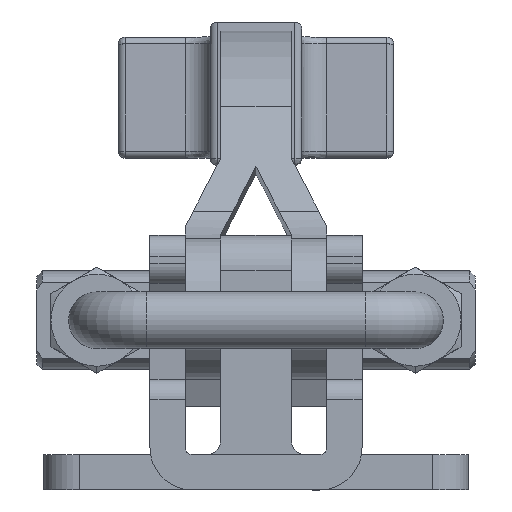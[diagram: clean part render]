
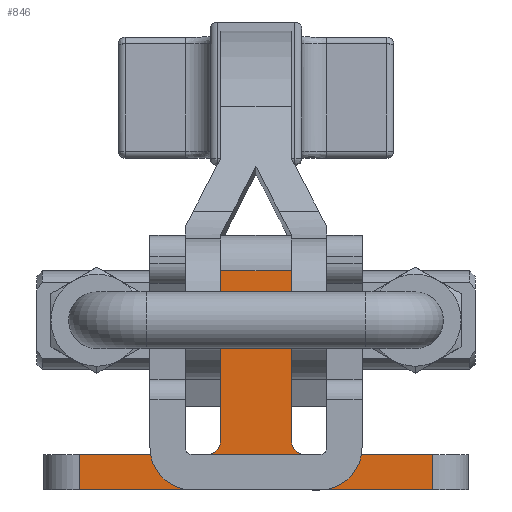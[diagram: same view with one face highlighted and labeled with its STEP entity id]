
A CAD part, front view. The second image highlights one B-rep face of the part: STEP entity #846.
In plain terms, the highlighted planar face has unit normal (0, -1, 0).
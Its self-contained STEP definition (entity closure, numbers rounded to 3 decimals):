
#104=CARTESIAN_POINT('Cartesian Point',(-5.,-10.,7.)) ;
#107=CARTESIAN_POINT('Line Origine',(-5.,-10.,19.)) ;
#111=CARTESIAN_POINT('Cartesian Point',(-5.,-10.,31.)) ;
#204=CARTESIAN_POINT('Cartesian Point',(5.,-10.,31.)) ;
#207=CARTESIAN_POINT('Line Origine',(5.,-10.,19.)) ;
#211=CARTESIAN_POINT('Cartesian Point',(5.,-10.,7.)) ;
#297=CARTESIAN_POINT('Axis2P3D Location',(7.,-10.,7.)) ;
#301=CARTESIAN_POINT('Cartesian Point',(7.,-10.,5.)) ;
#335=CARTESIAN_POINT('Line Origine',(16.,-10.,5.)) ;
#339=CARTESIAN_POINT('Cartesian Point',(25.,-10.,5.)) ;
#439=CARTESIAN_POINT('Cartesian Point',(-25.,-10.,0.)) ;
#474=CARTESIAN_POINT('Cartesian Point',(25.,-10.,0.)) ;
#477=CARTESIAN_POINT('Line Origine',(0.,-10.,0.)) ;
#605=CARTESIAN_POINT('Cartesian Point',(-25.,-10.,5.)) ;
#608=CARTESIAN_POINT('Line Origine',(-16.,-10.,5.)) ;
#612=CARTESIAN_POINT('Cartesian Point',(-7.,-10.,5.)) ;
#689=CARTESIAN_POINT('Axis2P3D Location',(-7.,-10.,7.)) ;
#814=CARTESIAN_POINT('Axis2P3D Location',(25.,-10.,36.)) ;
#819=CARTESIAN_POINT('Line Origine',(-25.,-10.,2.5)) ;
#824=CARTESIAN_POINT('Line Origine',(25.,-10.,2.5)) ;
#829=CARTESIAN_POINT('Line Origine',(0.,-10.,31.)) ;
#108=DIRECTION('Vector Direction',(0.,0.,-1.)) ;
#208=DIRECTION('Vector Direction',(0.,0.,-1.)) ;
#298=DIRECTION('Axis2P3D Direction',(0.,-1.,0.)) ;
#336=DIRECTION('Vector Direction',(-1.,0.,0.)) ;
#478=DIRECTION('Vector Direction',(-1.,0.,0.)) ;
#609=DIRECTION('Vector Direction',(-1.,0.,0.)) ;
#690=DIRECTION('Axis2P3D Direction',(0.,-1.,0.)) ;
#815=DIRECTION('Axis2P3D Direction',(0.,-1.,0.)) ;
#816=DIRECTION('Axis2P3D XDirection',(0.,0.,1.)) ;
#820=DIRECTION('Vector Direction',(0.,0.,-1.)) ;
#825=DIRECTION('Vector Direction',(0.,0.,-1.)) ;
#830=DIRECTION('Vector Direction',(-1.,0.,0.)) ;
#299=AXIS2_PLACEMENT_3D('Circle Axis2P3D',#297,#298,$) ;
#691=AXIS2_PLACEMENT_3D('Circle Axis2P3D',#689,#690,$) ;
#817=AXIS2_PLACEMENT_3D('Plane Axis2P3D',#814,#815,#816) ;
#835=ORIENTED_EDGE('Oriented Edge',*,*,#823,.T.) ;
#836=ORIENTED_EDGE('Oriented Edge',*,*,#481,.F.) ;
#837=ORIENTED_EDGE('Oriented Edge',*,*,#828,.F.) ;
#838=ORIENTED_EDGE('Oriented Edge',*,*,#341,.T.) ;
#839=ORIENTED_EDGE('Oriented Edge',*,*,#303,.T.) ;
#840=ORIENTED_EDGE('Oriented Edge',*,*,#213,.F.) ;
#841=ORIENTED_EDGE('Oriented Edge',*,*,#833,.T.) ;
#842=ORIENTED_EDGE('Oriented Edge',*,*,#113,.T.) ;
#843=ORIENTED_EDGE('Oriented Edge',*,*,#693,.T.) ;
#844=ORIENTED_EDGE('Oriented Edge',*,*,#614,.T.) ;
#109=VECTOR('Line Direction',#108,1.) ;
#209=VECTOR('Line Direction',#208,1.) ;
#337=VECTOR('Line Direction',#336,1.) ;
#479=VECTOR('Line Direction',#478,1.) ;
#610=VECTOR('Line Direction',#609,1.) ;
#821=VECTOR('Line Direction',#820,1.) ;
#826=VECTOR('Line Direction',#825,1.) ;
#831=VECTOR('Line Direction',#830,1.) ;
#846=ADVANCED_FACE('',(#845),#818,.T.) ;
#300=CIRCLE('generated circle',#299,2.) ;
#692=CIRCLE('generated circle',#691,2.) ;
#113=EDGE_CURVE('',#112,#105,#110,.T.) ;
#213=EDGE_CURVE('',#205,#212,#210,.T.) ;
#303=EDGE_CURVE('',#302,#212,#300,.F.) ;
#341=EDGE_CURVE('',#340,#302,#338,.T.) ;
#481=EDGE_CURVE('',#475,#440,#480,.T.) ;
#614=EDGE_CURVE('',#613,#606,#611,.T.) ;
#693=EDGE_CURVE('',#105,#613,#692,.F.) ;
#823=EDGE_CURVE('',#606,#440,#822,.T.) ;
#828=EDGE_CURVE('',#340,#475,#827,.T.) ;
#833=EDGE_CURVE('',#205,#112,#832,.T.) ;
#834=EDGE_LOOP('Oriented Loop',(#835,#836,#837,#838,#839,#840,#841,#842,#843,#844)) ;
#845=FACE_OUTER_BOUND('Face Bound',#834,.T.) ;
#110=LINE('Line',#107,#109) ;
#210=LINE('Line',#207,#209) ;
#338=LINE('Line',#335,#337) ;
#480=LINE('Line',#477,#479) ;
#611=LINE('Line',#608,#610) ;
#822=LINE('Line',#819,#821) ;
#827=LINE('Line',#824,#826) ;
#832=LINE('Line',#829,#831) ;
#818=PLANE('Plane',#817) ;
#105=VERTEX_POINT('Vertex Point',#104) ;
#112=VERTEX_POINT('Vertex Point',#111) ;
#205=VERTEX_POINT('Vertex Point',#204) ;
#212=VERTEX_POINT('Vertex Point',#211) ;
#302=VERTEX_POINT('Vertex Point',#301) ;
#340=VERTEX_POINT('Vertex Point',#339) ;
#440=VERTEX_POINT('Vertex Point',#439) ;
#475=VERTEX_POINT('Vertex Point',#474) ;
#606=VERTEX_POINT('Vertex Point',#605) ;
#613=VERTEX_POINT('Vertex Point',#612) ;
